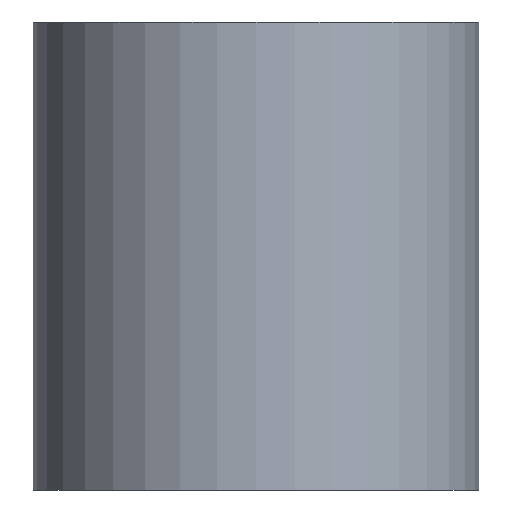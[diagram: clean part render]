
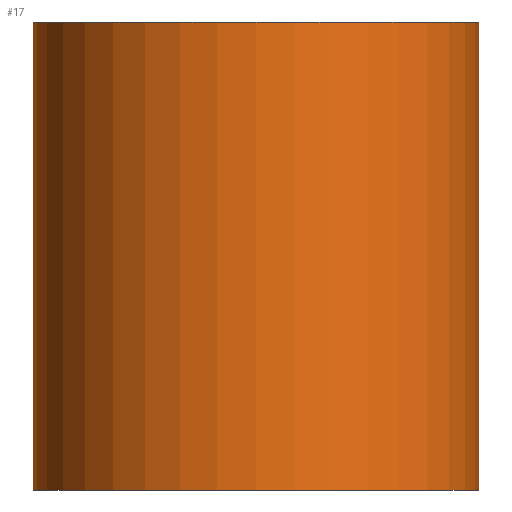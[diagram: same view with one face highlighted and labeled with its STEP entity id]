
A CAD part, front view. The second image highlights one B-rep face of the part: STEP entity #17.
In plain terms, the highlighted cylindrical face has radius 3.95 mm (diameter 7.9 mm), a full revolution.
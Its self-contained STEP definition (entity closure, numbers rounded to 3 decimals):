
#17 = ADVANCED_FACE('',(#18),#31,.T.);
#18 = FACE_BOUND('',#19,.T.);
#19 = EDGE_LOOP('',(#20,#54,#77,#104));
#20 = ORIENTED_EDGE('',*,*,#21,.F.);
#21 = EDGE_CURVE('',#22,#22,#24,.T.);
#22 = VERTEX_POINT('',#23);
#23 = CARTESIAN_POINT('',(3.95,0.,8.3));
#24 = SURFACE_CURVE('',#25,(#30,#42),.PCURVE_S1.);
#25 = CIRCLE('',#26,3.95);
#26 = AXIS2_PLACEMENT_3D('',#27,#28,#29);
#27 = CARTESIAN_POINT('',(0.,0.,8.3));
#28 = DIRECTION('',(0.,0.,1.));
#29 = DIRECTION('',(1.,0.,-0.));
#30 = PCURVE('',#31,#36);
#31 = CYLINDRICAL_SURFACE('',#32,3.95);
#32 = AXIS2_PLACEMENT_3D('',#33,#34,#35);
#33 = CARTESIAN_POINT('',(0.,0.,0.));
#34 = DIRECTION('',(0.,0.,1.));
#35 = DIRECTION('',(1.,0.,-0.));
#36 = DEFINITIONAL_REPRESENTATION('',(#37),#41);
#37 = LINE('',#38,#39);
#38 = CARTESIAN_POINT('',(0.,8.3));
#39 = VECTOR('',#40,1.);
#40 = DIRECTION('',(1.,0.));
#41 = ( GEOMETRIC_REPRESENTATION_CONTEXT(2) 
PARAMETRIC_REPRESENTATION_CONTEXT() REPRESENTATION_CONTEXT('2D SPACE',''
  ) );
#42 = PCURVE('',#43,#48);
#43 = PLANE('',#44);
#44 = AXIS2_PLACEMENT_3D('',#45,#46,#47);
#45 = CARTESIAN_POINT('',(0.,0.,8.3));
#46 = DIRECTION('',(0.,0.,1.));
#47 = DIRECTION('',(1.,0.,-0.));
#48 = DEFINITIONAL_REPRESENTATION('',(#49),#53);
#49 = CIRCLE('',#50,3.95);
#50 = AXIS2_PLACEMENT_2D('',#51,#52);
#51 = CARTESIAN_POINT('',(0.,0.));
#52 = DIRECTION('',(1.,0.));
#53 = ( GEOMETRIC_REPRESENTATION_CONTEXT(2) 
PARAMETRIC_REPRESENTATION_CONTEXT() REPRESENTATION_CONTEXT('2D SPACE',''
  ) );
#54 = ORIENTED_EDGE('',*,*,#55,.F.);
#55 = EDGE_CURVE('',#56,#22,#58,.T.);
#56 = VERTEX_POINT('',#57);
#57 = CARTESIAN_POINT('',(3.95,0.,0.));
#58 = SEAM_CURVE('',#59,(#63,#70),.PCURVE_S1.);
#59 = LINE('',#60,#61);
#60 = CARTESIAN_POINT('',(3.95,0.,0.));
#61 = VECTOR('',#62,1.);
#62 = DIRECTION('',(0.,0.,1.));
#63 = PCURVE('',#31,#64);
#64 = DEFINITIONAL_REPRESENTATION('',(#65),#69);
#65 = LINE('',#66,#67);
#66 = CARTESIAN_POINT('',(6.283,-0.));
#67 = VECTOR('',#68,1.);
#68 = DIRECTION('',(0.,1.));
#69 = ( GEOMETRIC_REPRESENTATION_CONTEXT(2) 
PARAMETRIC_REPRESENTATION_CONTEXT() REPRESENTATION_CONTEXT('2D SPACE',''
  ) );
#70 = PCURVE('',#31,#71);
#71 = DEFINITIONAL_REPRESENTATION('',(#72),#76);
#72 = LINE('',#73,#74);
#73 = CARTESIAN_POINT('',(0.,-0.));
#74 = VECTOR('',#75,1.);
#75 = DIRECTION('',(0.,1.));
#76 = ( GEOMETRIC_REPRESENTATION_CONTEXT(2) 
PARAMETRIC_REPRESENTATION_CONTEXT() REPRESENTATION_CONTEXT('2D SPACE',''
  ) );
#77 = ORIENTED_EDGE('',*,*,#78,.T.);
#78 = EDGE_CURVE('',#56,#56,#79,.T.);
#79 = SURFACE_CURVE('',#80,(#85,#92),.PCURVE_S1.);
#80 = CIRCLE('',#81,3.95);
#81 = AXIS2_PLACEMENT_3D('',#82,#83,#84);
#82 = CARTESIAN_POINT('',(0.,0.,0.));
#83 = DIRECTION('',(0.,0.,1.));
#84 = DIRECTION('',(1.,0.,-0.));
#85 = PCURVE('',#31,#86);
#86 = DEFINITIONAL_REPRESENTATION('',(#87),#91);
#87 = LINE('',#88,#89);
#88 = CARTESIAN_POINT('',(0.,0.));
#89 = VECTOR('',#90,1.);
#90 = DIRECTION('',(1.,0.));
#91 = ( GEOMETRIC_REPRESENTATION_CONTEXT(2) 
PARAMETRIC_REPRESENTATION_CONTEXT() REPRESENTATION_CONTEXT('2D SPACE',''
  ) );
#92 = PCURVE('',#93,#98);
#93 = PLANE('',#94);
#94 = AXIS2_PLACEMENT_3D('',#95,#96,#97);
#95 = CARTESIAN_POINT('',(0.,0.,0.));
#96 = DIRECTION('',(0.,0.,1.));
#97 = DIRECTION('',(1.,0.,-0.));
#98 = DEFINITIONAL_REPRESENTATION('',(#99),#103);
#99 = CIRCLE('',#100,3.95);
#100 = AXIS2_PLACEMENT_2D('',#101,#102);
#101 = CARTESIAN_POINT('',(0.,0.));
#102 = DIRECTION('',(1.,0.));
#103 = ( GEOMETRIC_REPRESENTATION_CONTEXT(2) 
PARAMETRIC_REPRESENTATION_CONTEXT() REPRESENTATION_CONTEXT('2D SPACE',''
  ) );
#104 = ORIENTED_EDGE('',*,*,#55,.T.);
